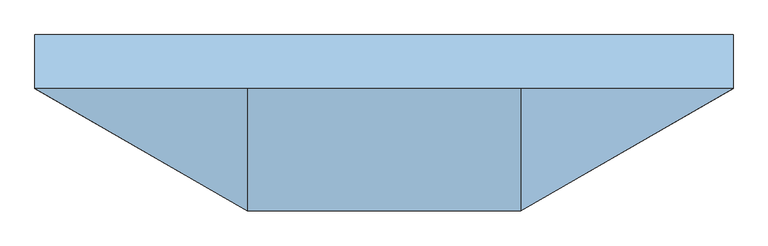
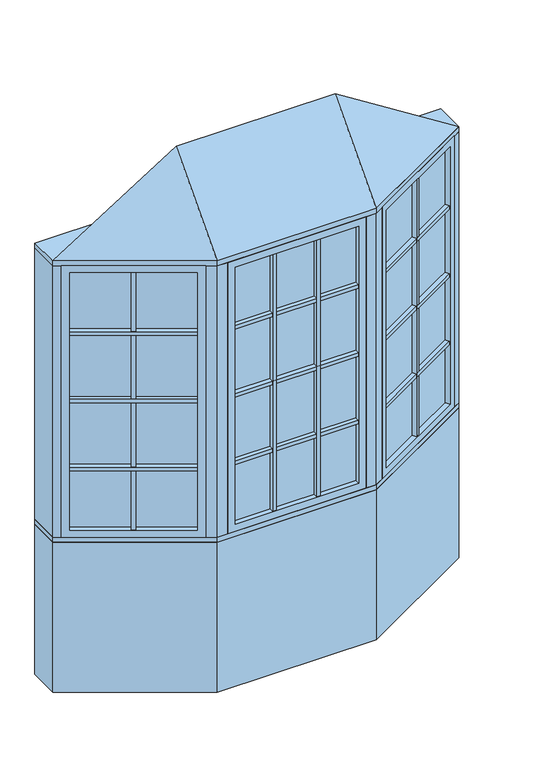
"""IFC4 building model written with IfcOpenShell, lengths in millimetres: window geometry, Pollard_Windows_Tudor Casement Bows and Bays : AML-BAY 30 AFR0514-10-600_GC."""

from ifc_helpers import new_model, si_unit, frame, origin, origin_with_axes, place, context, project, spatial, polyline, outline, extrude, faceted_brep, source, transform, mapped, element, save


def window_4b55bb3e(model_context):
    return source(origin(), model_context, "Body", "SolidModel", [
        extrude(outline(polyline([(460.381999, -376.6297343), (449.381999, -357.5771754), (915.6135794, -88.3982469), (926.6135794, -107.4508058), (460.381999, -376.6297343)])), frame((0.0, 0.0, 1490.998), z_axis=(0.0, 0.0, 1.0), x_axis=(1.0, 0.0, 0.0)), (0.0, 0.0, 1.0), 18.0),
        extrude(outline(polyline([(446.841999, -353.1777664), (435.841999, -334.1252075), (902.0735794, -64.946279), (913.0735794, -83.9988379), (446.841999, -353.1777664)])), frame((0.0, 0.0, 1490.998), z_axis=(0.0, 0.0, 1.0), x_axis=(1.0, 0.0, 0.0)), (0.0, 0.0, 1.0), 18.0),
        extrude(outline(polyline([(460.381999, -376.6297343), (449.381999, -357.5771754), (915.6135794, -88.3982469), (926.6135794, -107.4508058), (460.381999, -376.6297343)])), frame((0.0, 0.0, 1140.998), z_axis=(0.0, 0.0, 1.0), x_axis=(1.0, 0.0, 0.0)), (0.0, 0.0, 1.0), 18.0),
        extrude(outline(polyline([(446.841999, -353.1777664), (435.841999, -334.1252075), (902.0735794, -64.946279), (913.0735794, -83.9988379), (446.841999, -353.1777664)])), frame((0.0, 0.0, 1140.998), z_axis=(0.0, 0.0, 1.0), x_axis=(1.0, 0.0, 0.0)), (0.0, 0.0, 1.0), 18.0),
        extrude(outline(polyline([(460.381999, -376.6297343), (449.381999, -357.5771754), (915.6135794, -88.3982469), (926.6135794, -107.4508058), (460.381999, -376.6297343)])), frame((0.0, 0.0, 1490.998), z_axis=(0.0, 0.0, 1.0), x_axis=(1.0, 0.0, 0.0)), (0.0, 0.0, 1.0), 18.0),
        extrude(outline(polyline([(446.841999, -353.1777664), (435.841999, -334.1252075), (902.0735794, -64.946279), (913.0735794, -83.9988379), (446.841999, -353.1777664)])), frame((0.0, 0.0, 1490.998), z_axis=(0.0, 0.0, 1.0), x_axis=(1.0, 0.0, 0.0)), (0.0, 0.0, 1.0), 18.0),
        extrude(outline(polyline([(460.381999, -376.6297343), (449.381999, -357.5771754), (915.6135794, -88.3982469), (926.6135794, -107.4508058), (460.381999, -376.6297343)])), frame((0.0, 0.0, 1490.998), z_axis=(0.0, 0.0, 1.0), x_axis=(1.0, 0.0, 0.0)), (0.0, 0.0, 1.0), 18.0),
        extrude(outline(polyline([(446.841999, -353.1777664), (435.841999, -334.1252075), (902.0735794, -64.946279), (913.0735794, -83.9988379), (446.841999, -353.1777664)])), frame((0.0, 0.0, 1490.998), z_axis=(0.0, 0.0, 1.0), x_axis=(1.0, 0.0, 0.0)), (0.0, 0.0, 1.0), 18.0),
        extrude(outline(polyline([(460.381999, -376.6297343), (449.381999, -357.5771754), (915.6135794, -88.3982469), (926.6135794, -107.4508058), (460.381999, -376.6297343)])), frame((0.0, 0.0, 1840.998), z_axis=(0.0, 0.0, 1.0), x_axis=(1.0, 0.0, 0.0)), (0.0, 0.0, 1.0), 18.0),
        extrude(outline(polyline([(446.841999, -353.1777664), (435.841999, -334.1252075), (902.0735794, -64.946279), (913.0735794, -83.9988379), (446.841999, -353.1777664)])), frame((0.0, 0.0, 1840.998), z_axis=(0.0, 0.0, 1.0), x_axis=(1.0, 0.0, 0.0)), (0.0, 0.0, 1.0), 18.0),
        extrude(outline(polyline([(690.2920178, -218.4877112), (701.2920178, -237.5402701), (685.7035606, -246.5402701), (674.7035606, -227.4877112), (690.2920178, -218.4877112)])), frame((0.0, 0.0, 835.8628), z_axis=(0.0, 0.0, 1.0), x_axis=(1.0, 0.0, 0.0)), (0.0, 0.0, 1.0), 1328.2704),
        extrude(outline(polyline([(687.7520178, -214.0883021), (672.1635606, -223.0883021), (661.1635606, -204.0357432), (676.7520178, -195.0357432), (687.7520178, -214.0883021)])), frame((0.0, 0.0, 835.8628), z_axis=(0.0, 0.0, 1.0), x_axis=(1.0, 0.0, 0.0)), (0.0, 0.0, 1.0), 1328.2704),
        extrude(outline(polyline([(926.612102, -82.0482469), (438.3834764, -363.9271754), (435.8434764, -359.5277664), (924.072102, -77.6488379), (926.612102, -82.0482469)])), frame((0.0, 0.0, 823.1628), z_axis=(0.0, 0.0, 1.0), x_axis=(1.0, 0.0, 0.0)), (0.0, 0.0, 1.0), 1353.6704),
        faceted_brep([(915.6135794, -88.3982469, 835.8628), (928.3135794, -110.3952922, 835.8628), (928.3135794, -110.3952922, 2164.1332), (915.6135794, -88.3982469, 2164.1332), (924.072102, -77.6488379, 823.1628), (926.612102, -82.0482469, 823.1628), (926.612102, -82.0482469, 2176.8332), (924.072102, -77.6488379, 2176.8332), (900.3735794, -62.0017926, 835.8628), (913.0735794, -83.9988379, 835.8628), (913.0735794, -83.9988379, 2164.1332), (900.3735794, -62.0017926, 2164.1332), (959.3734073, -92.4628922, 799.998), (931.4334073, -44.0693926, 799.998), (931.4334073, -44.0693926, 2199.998), (959.3734073, -92.4628922, 2199.998), (462.081999, -379.5742207, 2164.1332), (449.381999, -357.5771754, 2164.1332), (438.3834764, -363.9271754, 2176.8332), (435.8434764, -359.5277664, 2176.8332), (446.841999, -353.1777664, 2164.1332), (434.141999, -331.1807211, 2164.1332), (403.0821711, -349.1131211, 2199.998), (431.0221711, -397.5066207, 2199.998), (462.081999, -379.5742207, 835.8628), (449.381999, -357.5771754, 835.8628), (438.3834764, -363.9271754, 823.1628), (435.8434764, -359.5277664, 823.1628), (446.841999, -353.1777664, 835.8628), (434.141999, -331.1807211, 835.8628), (403.0821711, -349.1131211, 799.998), (431.0221711, -397.5066207, 799.998)], [[[0, 1, 2, 3]], [[4, 5, 6, 7]], [[8, 9, 10, 11]], [[12, 13, 14, 15]], [[3, 2, 16, 17]], [[7, 6, 18, 19]], [[11, 10, 20, 21]], [[15, 14, 22, 23]], [[17, 16, 24, 25]], [[19, 18, 26, 27]], [[21, 20, 28, 29]], [[23, 22, 30, 31]], [[25, 24, 1, 0]], [[5, 26, 18, 6], [3, 17, 25, 0]], [[27, 26, 5, 4]], [[7, 19, 27, 4], [9, 28, 20, 10]], [[29, 28, 9, 8]], [[13, 30, 22, 14], [11, 21, 29, 8]], [[31, 30, 13, 12]], [[15, 23, 31, 12], [1, 24, 16, 2]]]),
        extrude(outline(polyline([(116.852167, -397.1066207), (116.852167, -419.1066207), (98.852167, -419.1066207), (98.852167, -397.1066207), (116.852167, -397.1066207)])), frame((0.0, 0.0, 835.8628), z_axis=(0.0, 0.0, 1.0), x_axis=(1.0, 0.0, 0.0)), (0.0, 0.0, 1.0), 1328.2704),
        extrude(outline(polyline([(116.852167, -392.0266207), (98.852167, -392.0266207), (98.852167, -370.0266207), (116.852167, -370.0266207), (116.852167, -392.0266207)])), frame((0.0, 0.0, 835.8628), z_axis=(0.0, 0.0, 1.0), x_axis=(1.0, 0.0, 0.0)), (0.0, 0.0, 1.0), 1328.2704),
        extrude(outline(polyline([(-98.852167, -397.1066207), (-98.852167, -419.1066207), (-116.852167, -419.1066207), (-116.852167, -397.1066207), (-98.852167, -397.1066207)])), frame((0.0, 0.0, 835.8628), z_axis=(0.0, 0.0, 1.0), x_axis=(1.0, 0.0, 0.0)), (0.0, 0.0, 1.0), 1328.2704),
        extrude(outline(polyline([(-98.852167, -392.0266207), (-116.852167, -392.0266207), (-116.852167, -370.0266207), (-98.852167, -370.0266207), (-98.852167, -392.0266207)])), frame((0.0, 0.0, 835.8628), z_axis=(0.0, 0.0, 1.0), x_axis=(1.0, 0.0, 0.0)), (0.0, 0.0, 1.0), 1328.2704),
        extrude(outline(polyline([(-301.8561009, -419.1066207), (-301.8561009, -397.1066207), (301.8561009, -397.1066207), (301.8561009, -419.1066207), (-301.8561009, -419.1066207)])), frame((0.0, 0.0, 1140.998), z_axis=(0.0, 0.0, 1.0), x_axis=(1.0, 0.0, 0.0)), (0.0, 0.0, 1.0), 18.0),
        extrude(outline(polyline([(-301.8561009, -392.0266207), (-301.8561009, -370.0266207), (301.8561009, -370.0266207), (301.8561009, -392.0266207), (-301.8561009, -392.0266207)])), frame((0.0, 0.0, 1140.998), z_axis=(0.0, 0.0, 1.0), x_axis=(1.0, 0.0, 0.0)), (0.0, 0.0, 1.0), 18.0),
        extrude(outline(polyline([(-301.8561009, -419.1066207), (-301.8561009, -397.1066207), (301.8561009, -397.1066207), (301.8561009, -419.1066207), (-301.8561009, -419.1066207)])), frame((0.0, 0.0, 1490.998), z_axis=(0.0, 0.0, 1.0), x_axis=(1.0, 0.0, 0.0)), (0.0, 0.0, 1.0), 18.0),
        extrude(outline(polyline([(-301.8561009, -392.0266207), (-301.8561009, -370.0266207), (301.8561009, -370.0266207), (301.8561009, -392.0266207), (-301.8561009, -392.0266207)])), frame((0.0, 0.0, 1490.998), z_axis=(0.0, 0.0, 1.0), x_axis=(1.0, 0.0, 0.0)), (0.0, 0.0, 1.0), 18.0),
        extrude(outline(polyline([(-301.8561009, -419.1066207), (-301.8561009, -397.1066207), (301.8561009, -397.1066207), (301.8561009, -419.1066207), (-301.8561009, -419.1066207)])), frame((0.0, 0.0, 1490.998), z_axis=(0.0, 0.0, 1.0), x_axis=(1.0, 0.0, 0.0)), (0.0, 0.0, 1.0), 18.0),
        extrude(outline(polyline([(-301.8561009, -392.0266207), (-301.8561009, -370.0266207), (301.8561009, -370.0266207), (301.8561009, -392.0266207), (-301.8561009, -392.0266207)])), frame((0.0, 0.0, 1490.998), z_axis=(0.0, 0.0, 1.0), x_axis=(1.0, 0.0, 0.0)), (0.0, 0.0, 1.0), 18.0),
        extrude(outline(polyline([(-301.8561009, -419.1066207), (-301.8561009, -397.1066207), (301.8561009, -397.1066207), (301.8561009, -419.1066207), (-301.8561009, -419.1066207)])), frame((0.0, 0.0, 1490.998), z_axis=(0.0, 0.0, 1.0), x_axis=(1.0, 0.0, 0.0)), (0.0, 0.0, 1.0), 18.0),
        extrude(outline(polyline([(-301.8561009, -392.0266207), (-301.8561009, -370.0266207), (301.8561009, -370.0266207), (301.8561009, -392.0266207), (-301.8561009, -392.0266207)])), frame((0.0, 0.0, 1490.998), z_axis=(0.0, 0.0, 1.0), x_axis=(1.0, 0.0, 0.0)), (0.0, 0.0, 1.0), 18.0),
        extrude(outline(polyline([(-926.6135794, -107.4508058), (-915.6135794, -88.3982469), (-449.381999, -357.5771754), (-460.381999, -376.6297343), (-926.6135794, -107.4508058)])), frame((0.0, 0.0, 1140.998), z_axis=(0.0, 0.0, 1.0), x_axis=(1.0, 0.0, 0.0)), (0.0, 0.0, 1.0), 18.0),
        extrude(outline(polyline([(-913.0735794, -83.9988379), (-902.0735794, -64.946279), (-435.841999, -334.1252075), (-446.841999, -353.1777664), (-913.0735794, -83.9988379)])), frame((0.0, 0.0, 1140.998), z_axis=(0.0, 0.0, 1.0), x_axis=(1.0, 0.0, 0.0)), (0.0, 0.0, 1.0), 18.0),
        extrude(outline(polyline([(-926.6135794, -107.4508058), (-915.6135794, -88.3982469), (-449.381999, -357.5771754), (-460.381999, -376.6297343), (-926.6135794, -107.4508058)])), frame((0.0, 0.0, 1490.998), z_axis=(0.0, 0.0, 1.0), x_axis=(1.0, 0.0, 0.0)), (0.0, 0.0, 1.0), 18.0),
        extrude(outline(polyline([(-913.0735794, -83.9988379), (-902.0735794, -64.946279), (-435.841999, -334.1252075), (-446.841999, -353.1777664), (-913.0735794, -83.9988379)])), frame((0.0, 0.0, 1490.998), z_axis=(0.0, 0.0, 1.0), x_axis=(1.0, 0.0, 0.0)), (0.0, 0.0, 1.0), 18.0),
        extrude(outline(polyline([(-926.6135794, -107.4508058), (-915.6135794, -88.3982469), (-449.381999, -357.5771754), (-460.381999, -376.6297343), (-926.6135794, -107.4508058)])), frame((0.0, 0.0, 1490.998), z_axis=(0.0, 0.0, 1.0), x_axis=(1.0, 0.0, 0.0)), (0.0, 0.0, 1.0), 18.0),
        extrude(outline(polyline([(-913.0735794, -83.9988379), (-902.0735794, -64.946279), (-435.841999, -334.1252075), (-446.841999, -353.1777664), (-913.0735794, -83.9988379)])), frame((0.0, 0.0, 1490.998), z_axis=(0.0, 0.0, 1.0), x_axis=(1.0, 0.0, 0.0)), (0.0, 0.0, 1.0), 18.0),
        extrude(outline(polyline([(-926.6135794, -107.4508058), (-915.6135794, -88.3982469), (-449.381999, -357.5771754), (-460.381999, -376.6297343), (-926.6135794, -107.4508058)])), frame((0.0, 0.0, 1490.998), z_axis=(0.0, 0.0, 1.0), x_axis=(1.0, 0.0, 0.0)), (0.0, 0.0, 1.0), 18.0),
        extrude(outline(polyline([(-913.0735794, -83.9988379), (-902.0735794, -64.946279), (-435.841999, -334.1252075), (-446.841999, -353.1777664), (-913.0735794, -83.9988379)])), frame((0.0, 0.0, 1490.998), z_axis=(0.0, 0.0, 1.0), x_axis=(1.0, 0.0, 0.0)), (0.0, 0.0, 1.0), 18.0),
        extrude(outline(polyline([(-926.6135794, -107.4508058), (-915.6135794, -88.3982469), (-449.381999, -357.5771754), (-460.381999, -376.6297343), (-926.6135794, -107.4508058)])), frame((0.0, 0.0, 1840.998), z_axis=(0.0, 0.0, 1.0), x_axis=(1.0, 0.0, 0.0)), (0.0, 0.0, 1.0), 18.0),
        extrude(outline(polyline([(-913.0735794, -83.9988379), (-902.0735794, -64.946279), (-435.841999, -334.1252075), (-446.841999, -353.1777664), (-913.0735794, -83.9988379)])), frame((0.0, 0.0, 1840.998), z_axis=(0.0, 0.0, 1.0), x_axis=(1.0, 0.0, 0.0)), (0.0, 0.0, 1.0), 18.0),
        extrude(outline(polyline([(-301.8561009, -419.1066207), (-301.8561009, -397.1066207), (301.8561009, -397.1066207), (301.8561009, -419.1066207), (-301.8561009, -419.1066207)])), frame((0.0, 0.0, 1840.998), z_axis=(0.0, 0.0, 1.0), x_axis=(1.0, 0.0, 0.0)), (0.0, 0.0, 1.0), 18.0),
        extrude(outline(polyline([(-301.8561009, -392.0266207), (-301.8561009, -370.0266207), (301.8561009, -370.0266207), (301.8561009, -392.0266207), (-301.8561009, -392.0266207)])), frame((0.0, 0.0, 1840.998), z_axis=(0.0, 0.0, 1.0), x_axis=(1.0, 0.0, 0.0)), (0.0, 0.0, 1.0), 18.0),
        extrude(outline(polyline([(-674.7035606, -227.4877112), (-685.7035606, -246.5402701), (-701.2920178, -237.5402701), (-690.2920178, -218.4877112), (-674.7035606, -227.4877112)])), frame((0.0, 0.0, 835.8628), z_axis=(0.0, 0.0, 1.0), x_axis=(1.0, 0.0, 0.0)), (0.0, 0.0, 1.0), 1328.2704),
        extrude(outline(polyline([(-672.1635606, -223.0883021), (-687.7520178, -214.0883021), (-676.7520178, -195.0357432), (-661.1635606, -204.0357432), (-672.1635606, -223.0883021)])), frame((0.0, 0.0, 835.8628), z_axis=(0.0, 0.0, 1.0), x_axis=(1.0, 0.0, 0.0)), (0.0, 0.0, 1.0), 1328.2704),
        extrude(outline(polyline([(-438.3834764, -363.9271754), (-926.612102, -82.0482469), (-924.072102, -77.6488379), (-435.8434764, -359.5277664), (-438.3834764, -363.9271754)])), frame((0.0, 0.0, 823.1628), z_axis=(0.0, 0.0, 1.0), x_axis=(1.0, 0.0, 0.0)), (0.0, 0.0, 1.0), 1353.6704),
        faceted_brep([(-446.841999, -353.1777664, 2164.1332), (-434.141999, -331.1807211, 2164.1332), (-434.141999, -331.1807211, 835.8628), (-446.841999, -353.1777664, 835.8628), (-438.3834764, -363.9271754, 2176.8332), (-435.8434764, -359.5277664, 2176.8332), (-435.8434764, -359.5277664, 823.1628), (-438.3834764, -363.9271754, 823.1628), (-462.081999, -379.5742207, 2164.1332), (-449.381999, -357.5771754, 2164.1332), (-449.381999, -357.5771754, 835.8628), (-462.081999, -379.5742207, 835.8628), (-403.0821711, -349.1131211, 2199.998), (-431.0221711, -397.5066207, 2199.998), (-431.0221711, -397.5066207, 799.998), (-403.0821711, -349.1131211, 799.998), (-900.3735794, -62.0017926, 835.8628), (-913.0735794, -83.9988379, 835.8628), (-924.072102, -77.6488379, 823.1628), (-926.612102, -82.0482469, 823.1628), (-915.6135794, -88.3982469, 835.8628), (-928.3135794, -110.3952922, 835.8628), (-959.3734073, -92.4628922, 799.998), (-931.4334073, -44.0693926, 799.998), (-900.3735794, -62.0017926, 2164.1332), (-913.0735794, -83.9988379, 2164.1332), (-924.072102, -77.6488379, 2176.8332), (-926.612102, -82.0482469, 2176.8332), (-915.6135794, -88.3982469, 2164.1332), (-928.3135794, -110.3952922, 2164.1332), (-959.3734073, -92.4628922, 2199.998), (-931.4334073, -44.0693926, 2199.998)], [[[0, 1, 2, 3]], [[4, 5, 6, 7]], [[8, 9, 10, 11]], [[12, 13, 14, 15]], [[3, 2, 16, 17]], [[7, 6, 18, 19]], [[11, 10, 20, 21]], [[15, 14, 22, 23]], [[17, 16, 24, 25]], [[19, 18, 26, 27]], [[21, 20, 28, 29]], [[23, 22, 30, 31]], [[15, 23, 31, 12], [1, 24, 16, 2]], [[25, 24, 1, 0]], [[5, 26, 18, 6], [3, 17, 25, 0]], [[27, 26, 5, 4]], [[7, 19, 27, 4], [9, 28, 20, 10]], [[29, 28, 9, 8]], [[13, 30, 22, 14], [11, 21, 29, 8]], [[31, 30, 13, 12]]]),
        extrude(outline(polyline([(314.5561009, -397.1066207), (-314.5561009, -397.1066207), (-314.5561009, -392.0266207), (314.5561009, -392.0266207), (314.5561009, -397.1066207)])), frame((0.0, 0.0, 823.1628), z_axis=(0.0, 0.0, 1.0), x_axis=(1.0, 0.0, 0.0)), (0.0, 0.0, 1.0), 1353.6704),
        faceted_brep([(301.8561009, -397.1066207, 835.8628), (301.8561009, -422.5066207, 835.8628), (301.8561009, -422.5066207, 2164.1332), (301.8561009, -397.1066207, 2164.1332), (314.5561009, -392.0266207, 823.1628), (314.5561009, -397.1066207, 823.1628), (314.5561009, -397.1066207, 2176.8332), (314.5561009, -392.0266207, 2176.8332), (301.8561009, -366.6266207, 835.8628), (301.8561009, -392.0266207, 835.8628), (301.8561009, -392.0266207, 2164.1332), (301.8561009, -366.6266207, 2164.1332), (337.7209009, -422.5066207, 799.998), (337.7209009, -366.6266207, 799.998), (337.7209009, -366.6266207, 2199.998), (337.7209009, -422.5066207, 2199.998), (-301.8561009, -422.5066207, 2164.1332), (-301.8561009, -397.1066207, 2164.1332), (-314.5561009, -397.1066207, 2176.8332), (-314.5561009, -392.0266207, 2176.8332), (-301.8561009, -392.0266207, 2164.1332), (-301.8561009, -366.6266207, 2164.1332), (-337.7209009, -366.6266207, 2199.998), (-337.7209009, -422.5066207, 2199.998), (-301.8561009, -422.5066207, 835.8628), (-301.8561009, -397.1066207, 835.8628), (-314.5561009, -397.1066207, 823.1628), (-314.5561009, -392.0266207, 823.1628), (-301.8561009, -392.0266207, 835.8628), (-301.8561009, -366.6266207, 835.8628), (-337.7209009, -366.6266207, 799.998), (-337.7209009, -422.5066207, 799.998)], [[[0, 1, 2, 3]], [[4, 5, 6, 7]], [[8, 9, 10, 11]], [[12, 13, 14, 15]], [[3, 2, 16, 17]], [[7, 6, 18, 19]], [[11, 10, 20, 21]], [[15, 14, 22, 23]], [[17, 16, 24, 25]], [[19, 18, 26, 27]], [[21, 20, 28, 29]], [[23, 22, 30, 31]], [[15, 23, 31, 12], [1, 24, 16, 2]], [[25, 24, 1, 0]], [[5, 26, 18, 6], [3, 17, 25, 0]], [[27, 26, 5, 4]], [[7, 19, 27, 4], [9, 28, 20, 10]], [[29, 28, 9, 8]], [[13, 30, 22, 14], [11, 21, 29, 8]], [[31, 30, 13, 12]]]),
        faceted_brep([(990.0, -74.7806207, 2225.398), (387.7209009, -422.5066207, 2225.398), (-387.7209009, -422.5066207, 2225.398), (-990.0, -74.7806207, 2225.398), (-387.7209009, -74.7806207, 2606.398), (387.7209009, -74.7806207, 2606.398)], [[[0, 1, 2, 3]], [[3, 2, 4]], [[2, 1, 5, 4]], [[1, 0, 5]], [[0, 3, 4, 5]]]),
        extrude(outline(polyline([(-990.0, 77.6193793), (990.0, 77.6193793), (990.0, -74.7806207), (387.7209009, -422.5066207), (-387.7209009, -422.5066207), (-990.0, -74.7806207), (-990.0, 77.6193793)])), frame((0.0, 0.0, 2199.998), z_axis=(0.0, 0.0, 1.0), x_axis=(1.0, 0.0, 0.0)), (0.0, 0.0, 1.0), 25.4),
        extrude(outline(polyline([(-990.0, -74.7806207), (-990.0, 77.6193793), (-949.1645431, 77.6193793), (-949.1645431, -74.7806207), (-959.3734073, -92.4628922), (-990.0, -74.7806207)])), frame((0.0, 0.0, 799.998), z_axis=(0.0, 0.0, 1.0), x_axis=(1.0, 0.0, 0.0)), (0.0, 0.0, 1.0), 1400.0),
        extrude(outline(polyline([(990.0, 77.6193793), (990.0, -74.7806207), (959.3734073, -92.4628922), (949.1645431, -74.7806207), (949.1645431, 77.6193793), (990.0, 77.6193793)])), frame((0.0, 0.0, 799.998), z_axis=(0.0, 0.0, 1.0), x_axis=(1.0, 0.0, 0.0)), (0.0, 0.0, 1.0), 1400.0),
        extrude(outline(polyline([(387.7209009, -422.5066207), (337.7209009, -422.5066207), (337.7209009, -372.5066207), (374.3234413, -372.5066207), (406.0221711, -354.2053505), (431.0221711, -397.5066207), (387.7209009, -422.5066207)])), frame((0.0, 0.0, 799.998), z_axis=(0.0, 0.0, 1.0), x_axis=(1.0, 0.0, 0.0)), (0.0, 0.0, 1.0), 1400.0),
        extrude(outline(polyline([(-387.7209009, -422.5066207), (-431.0221711, -397.5066207), (-406.0221711, -354.2053505), (-374.3234413, -372.5066207), (-337.7209009, -372.5066207), (-337.7209009, -422.5066207), (-387.7209009, -422.5066207)])), frame((0.0, 0.0, 799.998), z_axis=(0.0, 0.0, 1.0), x_axis=(1.0, 0.0, 0.0)), (0.0, 0.0, 1.0), 1400.0),
        extrude(outline(polyline([(-387.7209009, -422.5066207), (-990.0, -74.7806207), (-990.0, 77.6193793), (-949.1645431, 77.6193793), (-346.885444, -270.1066207), (346.885444, -270.1066207), (949.1645431, 77.6193793), (990.0, 77.6193793), (990.0, -74.7806207), (387.7209009, -422.5066207), (-387.7209009, -422.5066207)])), frame((0.0, 0.0, 774.598), z_axis=(0.0, 0.0, 1.0), x_axis=(1.0, 0.0, 0.0)), (0.0, 0.0, 1.0), 25.4),
        extrude(outline(polyline([(-990.0, -74.7806207), (-990.0, 77.6193793), (-949.1645431, 77.6193793), (-346.885444, -270.1066207), (346.885444, -270.1066207), (949.1645431, 77.6193793), (990.0, 77.6193793), (990.0, -74.7806207), (387.7209009, -422.5066207), (-387.7209009, -422.5066207), (-990.0, -74.7806207)])), origin_with_axes(), (0.0, 0.0, 1.0), 774.598),
    ])


if __name__ == "__main__":
    model = new_model("IFC4")
    model_context = context("Model", 3, world=origin())
    ifc_project = project(units=[si_unit("LENGTHUNIT", "METRE", prefix="MILLI")], contexts=[model_context])
    site = spatial("IfcSite", under=ifc_project)
    building = spatial("IfcBuilding", under=site)
    placement = place(None, origin())
    window_shape = window_4b55bb3e(model_context)
    element("IfcWindow", 1, ObjectType="Pollard_Windows_Tudor Casement Bows and Bays : AML-BAY 30 AFR0514-10-600_GC", at=placement, inside=building, context=model_context, shape_type="MappedRepresentation", body=[
        mapped(window_shape, transform((0.0, 0.0, 0.0), x_axis=(1.0, 0.0, 0.0), y_axis=(0.0, 1.0, 0.0), z_axis=(0.0, 0.0, 1.0))),
    ])
    save(model, "model.ifc")
